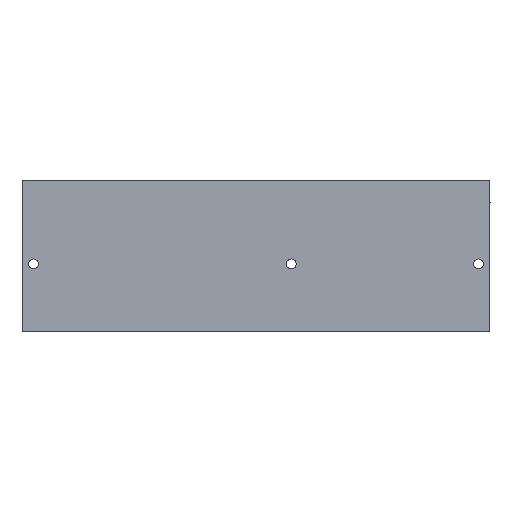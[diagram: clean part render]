
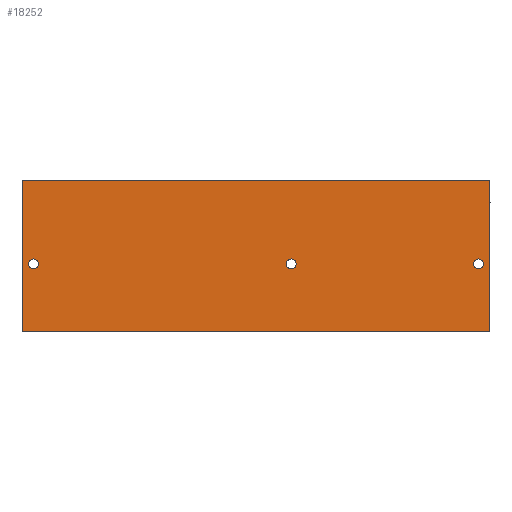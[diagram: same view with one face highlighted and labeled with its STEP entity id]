
A CAD part, front view. The second image highlights one B-rep face of the part: STEP entity #18252.
In plain terms, the highlighted planar face has unit normal (0, -1, 0).
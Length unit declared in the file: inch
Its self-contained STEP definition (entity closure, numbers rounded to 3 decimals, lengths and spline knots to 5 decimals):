
#333 = CARTESIAN_POINT ( 'NONE',  ( 9.35, 0., -2.728 ) ) ;
#488 = DIRECTION ( 'NONE',  ( 0., 1., 0. ) ) ;
#575 = FACE_OUTER_BOUND ( 'NONE', #12269, .T. ) ;
#932 = CARTESIAN_POINT ( 'NONE',  ( 15.85, 0., -3.072 ) ) ;
#938 = DIRECTION ( 'NONE',  ( 0., 1., 0. ) ) ;
#970 = CIRCLE ( 'NONE', #6325, 0.172 ) ;
#1022 = VERTEX_POINT ( 'NONE', #12023 ) ;
#1104 = CARTESIAN_POINT ( 'NONE',  ( 15.85, 0., -2.9 ) ) ;
#1442 = EDGE_LOOP ( 'NONE', ( #2752, #9007 ) ) ;
#1660 = CARTESIAN_POINT ( 'NONE',  ( 0.4, 0., -2.728 ) ) ;
#1930 = VERTEX_POINT ( 'NONE', #19265 ) ;
#2056 = VECTOR ( 'NONE', #9599, 39.37008 ) ;
#2285 = VERTEX_POINT ( 'NONE', #1660 ) ;
#2752 = ORIENTED_EDGE ( 'NONE', *, *, #4836, .T. ) ;
#2845 = DIRECTION ( 'NONE',  ( 0., 0., 1. ) ) ;
#3642 = VECTOR ( 'NONE', #20966, 39.37008 ) ;
#3731 = VERTEX_POINT ( 'NONE', #333 ) ;
#3813 = CARTESIAN_POINT ( 'NONE',  ( 16.25, 0., 0. ) ) ;
#4742 = AXIS2_PLACEMENT_3D ( 'NONE', #10850, #488, #12584 ) ;
#4772 = CARTESIAN_POINT ( 'NONE',  ( 0.4, 0., -2.9 ) ) ;
#4836 = EDGE_CURVE ( 'NONE', #3731, #15443, #16919, .T. ) ;
#4964 = ORIENTED_EDGE ( 'NONE', *, *, #11125, .T. ) ;
#5213 = FACE_BOUND ( 'NONE', #16278, .T. ) ;
#5313 = VECTOR ( 'NONE', #12129, 39.37008 ) ;
#5487 = ORIENTED_EDGE ( 'NONE', *, *, #15572, .T. ) ;
#5526 = EDGE_LOOP ( 'NONE', ( #4964, #5487 ) ) ;
#6325 = AXIS2_PLACEMENT_3D ( 'NONE', #4772, #16780, #6518 ) ;
#6431 = AXIS2_PLACEMENT_3D ( 'NONE', #1104, #13201, #2845 ) ;
#6518 = DIRECTION ( 'NONE',  ( 0., 0., 1. ) ) ;
#6706 = LINE ( 'NONE', #19853, #2056 ) ;
#6958 = CARTESIAN_POINT ( 'NONE',  ( 16.25, 0., 0. ) ) ;
#7261 = AXIS2_PLACEMENT_3D ( 'NONE', #19847, #9593, #21585 ) ;
#7733 = CIRCLE ( 'NONE', #7261, 0.172 ) ;
#8219 = VERTEX_POINT ( 'NONE', #10023 ) ;
#8950 = DIRECTION ( 'NONE',  ( 0., 0., 1. ) ) ;
#9007 = ORIENTED_EDGE ( 'NONE', *, *, #19987, .T. ) ;
#9283 = ORIENTED_EDGE ( 'NONE', *, *, #10860, .T. ) ;
#9307 = CARTESIAN_POINT ( 'NONE',  ( 0., 0., 0. ) ) ;
#9407 = VERTEX_POINT ( 'NONE', #20480 ) ;
#9593 = DIRECTION ( 'NONE',  ( 0., 1., 0. ) ) ;
#9599 = DIRECTION ( 'NONE',  ( -1., 0., 0. ) ) ;
#10023 = CARTESIAN_POINT ( 'NONE',  ( 16.25, 0., -5.25 ) ) ;
#10114 = VERTEX_POINT ( 'NONE', #932 ) ;
#10850 = CARTESIAN_POINT ( 'NONE',  ( 15.85, 0., -2.9 ) ) ;
#10860 = EDGE_CURVE ( 'NONE', #9407, #1930, #21986, .T. ) ;
#10992 = EDGE_CURVE ( 'NONE', #8219, #1930, #6706, .T. ) ;
#11060 = EDGE_CURVE ( 'NONE', #1022, #10114, #14216, .T. ) ;
#11125 = EDGE_CURVE ( 'NONE', #2285, #20582, #970, .T. ) ;
#11303 = CARTESIAN_POINT ( 'NONE',  ( 9.35, 0., -2.9 ) ) ;
#11424 = ORIENTED_EDGE ( 'NONE', *, *, #12021, .F. ) ;
#11430 = AXIS2_PLACEMENT_3D ( 'NONE', #14827, #14798, #14776 ) ;
#11975 = ORIENTED_EDGE ( 'NONE', *, *, #12147, .T. ) ;
#12021 = EDGE_CURVE ( 'NONE', #16616, #8219, #14463, .T. ) ;
#12023 = CARTESIAN_POINT ( 'NONE',  ( 15.85, 0., -2.728 ) ) ;
#12129 = DIRECTION ( 'NONE',  ( 0., 0., -1. ) ) ;
#12147 = EDGE_CURVE ( 'NONE', #16616, #9407, #12845, .T. ) ;
#12269 = EDGE_LOOP ( 'NONE', ( #9283, #15450, #11424, #11975 ) ) ;
#12584 = DIRECTION ( 'NONE',  ( 0., 0., 1. ) ) ;
#12780 = ORIENTED_EDGE ( 'NONE', *, *, #15941, .T. ) ;
#12845 = LINE ( 'NONE', #3813, #3642 ) ;
#13047 = DIRECTION ( 'NONE',  ( 0., 0., 1. ) ) ;
#13201 = DIRECTION ( 'NONE',  ( 0., 1., 0. ) ) ;
#14048 = CARTESIAN_POINT ( 'NONE',  ( 16.25, 0., 0. ) ) ;
#14109 = CARTESIAN_POINT ( 'NONE',  ( 9.35, 0., -3.072 ) ) ;
#14216 = CIRCLE ( 'NONE', #6431, 0.172 ) ;
#14282 = CARTESIAN_POINT ( 'NONE',  ( 0.4, 0., -3.072 ) ) ;
#14463 = LINE ( 'NONE', #6958, #5313 ) ;
#14776 = DIRECTION ( 'NONE',  ( 0., 0., 1. ) ) ;
#14798 = DIRECTION ( 'NONE',  ( 0., 1., 0. ) ) ;
#14827 = CARTESIAN_POINT ( 'NONE',  ( 9.35, 0., -2.9 ) ) ;
#15443 = VERTEX_POINT ( 'NONE', #14109 ) ;
#15450 = ORIENTED_EDGE ( 'NONE', *, *, #10992, .F. ) ;
#15572 = EDGE_CURVE ( 'NONE', #20582, #2285, #7733, .T. ) ;
#15941 = EDGE_CURVE ( 'NONE', #10114, #1022, #21126, .T. ) ;
#16278 = EDGE_LOOP ( 'NONE', ( #20807, #12780 ) ) ;
#16616 = VERTEX_POINT ( 'NONE', #19410 ) ;
#16780 = DIRECTION ( 'NONE',  ( 0., 1., 0. ) ) ;
#16919 = CIRCLE ( 'NONE', #11430, 0.172 ) ;
#17401 = VECTOR ( 'NONE', #21292, 39.37008 ) ;
#17456 = PLANE ( 'NONE',  #18314 ) ;
#18252 = ADVANCED_FACE ( 'NONE', ( #18336, #21604, #5213, #575 ), #17456, .F. ) ;
#18314 = AXIS2_PLACEMENT_3D ( 'NONE', #14048, #19184, #8950 ) ;
#18336 = FACE_BOUND ( 'NONE', #1442, .T. ) ;
#19184 = DIRECTION ( 'NONE',  ( 0., 1., 0. ) ) ;
#19265 = CARTESIAN_POINT ( 'NONE',  ( 0., 0., -5.25 ) ) ;
#19335 = CIRCLE ( 'NONE', #20790, 0.172 ) ;
#19410 = CARTESIAN_POINT ( 'NONE',  ( 16.25, 0., 0. ) ) ;
#19847 = CARTESIAN_POINT ( 'NONE',  ( 0.4, 0., -2.9 ) ) ;
#19853 = CARTESIAN_POINT ( 'NONE',  ( 16.25, 0., -5.25 ) ) ;
#19987 = EDGE_CURVE ( 'NONE', #15443, #3731, #19335, .T. ) ;
#20480 = CARTESIAN_POINT ( 'NONE',  ( 0., 0., 0. ) ) ;
#20582 = VERTEX_POINT ( 'NONE', #14282 ) ;
#20790 = AXIS2_PLACEMENT_3D ( 'NONE', #11303, #938, #13047 ) ;
#20807 = ORIENTED_EDGE ( 'NONE', *, *, #11060, .T. ) ;
#20966 = DIRECTION ( 'NONE',  ( -1., 0., 0. ) ) ;
#21126 = CIRCLE ( 'NONE', #4742, 0.172 ) ;
#21292 = DIRECTION ( 'NONE',  ( 0., 0., -1. ) ) ;
#21585 = DIRECTION ( 'NONE',  ( 0., 0., 1. ) ) ;
#21604 = FACE_BOUND ( 'NONE', #5526, .T. ) ;
#21986 = LINE ( 'NONE', #9307, #17401 ) ;
